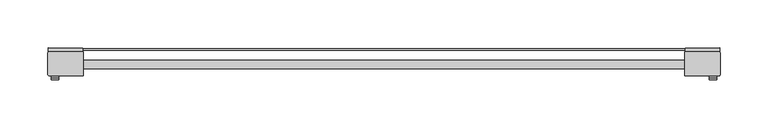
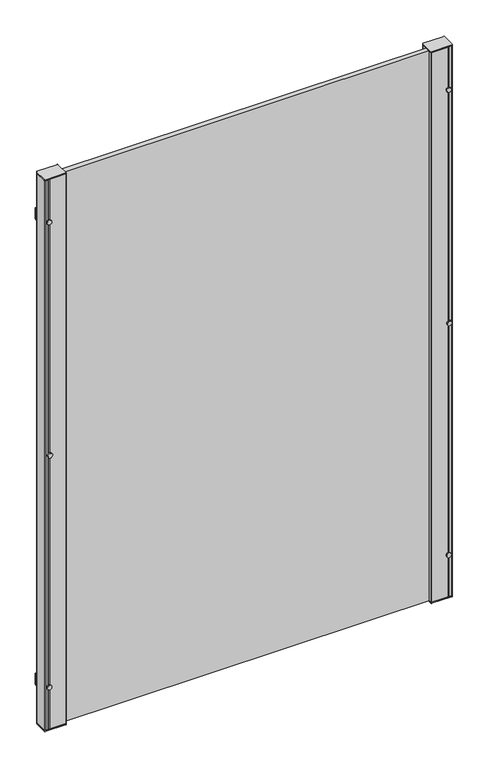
"""IFC4 building model written with IfcOpenShell, lengths in millimetres: railing geometry, F-Line Gotland 1,0m."""

from ifc_helpers import new_model, si_unit, point, frame, frame_2d, origin, place, context, project, spatial, polyline, circle_curve, trimmed, segment, composite_curve, outline, extrude, source, transform, mapped, element, save
from ifc_brep_helpers import plane_surface, cylinder_surface, advanced_brep


def railing_4f81313c(model_context):
    return source(origin(), model_context, "Body", "SolidModel", [
        extrude(outline(polyline([(-7719.9452678, -4853.7432901), (-7719.9452678, -4855.606973), (-8389.9452678, -4855.606973), (-8389.9452678, -4853.7432901), (-7719.9452678, -4853.7432901)])), frame((0.0, 0.0, 500.0), z_axis=(0.0, 0.0, 1.0), x_axis=(1.0, 0.0, 0.0)), (0.0, 0.0, 1.0), 1.1703418),
        extrude(outline(polyline([(-7719.9452678, -4866.3313559), (-7719.9452678, -4875.0913559), (-8389.9452678, -4875.0913559), (-8389.9452678, -4866.3313559), (-7719.9452678, -4866.3313559)])), frame((0.0, 0.0, 500.0), z_axis=(0.0, 0.0, 1.0), x_axis=(1.0, 0.0, 0.0)), (0.0, 0.0, 1.0), 999.0),
        extrude(outline(composite_curve([segment(trimmed(circle_curve(frame_2d((0.0, -4.0)), 4.0), [point((0.0, -8.0))], [point((0.0, 0.0))], False, "CARTESIAN"), True, "CONTINUOUS"), segment(trimmed(circle_curve(frame_2d((0.0, -4.0)), 4.0), [point((0.0, 0.0))], [point((0.0, -8.0))], False, "CARTESIAN"), True, "CONTINUOUS")], self_intersect=False)), frame((-8394.566425, -4886.2113714, 1000.5851709), z_axis=(-0.007850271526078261, 0.9999691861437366, 0.0), x_axis=(0.0, 0.0, 1.0)), (0.0, 0.0, 1.0), 2.0),
        extrude(outline(composite_curve([segment(trimmed(circle_curve(frame_2d((0.0, -4.0024314)), 4.0024314), [point((0.0, -8.0048629))], [point((0.0, 0.0))], False, "CARTESIAN"), True, "CONTINUOUS"), segment(trimmed(circle_curve(frame_2d((0.0, -4.0024314)), 4.0024314), [point((0.0, 0.0))], [point((0.0, -8.0048629))], False, "CARTESIAN"), True, "CONTINUOUS")], self_intersect=False)), frame((-8402.5690681, -4884.2741346, 577.9289095), z_axis=(-0.007850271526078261, 0.9999691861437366, 0.0), x_axis=(0.0, 0.0, -1.0)), (0.0, 0.0, 1.0), 2.0),
        extrude(outline(polyline([(-8405.7292985, -4853.2011524), (-8369.4164864, -4853.4862266), (-8369.4478875, -4857.4861033), (-8405.7606996, -4857.2010291), (-8405.7292985, -4853.2011524)])), frame((0.0, 0.0, 567.9289095), z_axis=(0.0, 0.0, 1.0), x_axis=(1.0, 0.0, 0.0)), (0.0, 0.0, 1.0), 20.0),
        extrude(outline(composite_curve([segment(trimmed(circle_curve(frame_2d((-8369.4452678, -4857.7113559)), 0.5), [point((-8369.6416779, -4857.2515483))], [point((-8368.9452678, -4857.7113559))], False, "CARTESIAN"), True, "CONTINUOUS"), segment(polyline([(-8368.9452678, -4857.7113559), (-8368.9452678, -4881.7113559)]), True, "CONTINUOUS"), segment(trimmed(circle_curve(frame_2d((-8369.4452678, -4881.7113559)), 0.5), [point((-8368.9452678, -4881.7113559))], [point((-8369.4452678, -4882.2113559))], False, "CARTESIAN"), True, "CONTINUOUS"), segment(polyline([(-8369.4452678, -4882.2113559), (-8404.4452678, -4882.2113559)]), True, "CONTINUOUS"), segment(trimmed(circle_curve(frame_2d((-8404.4452678, -4880.7113559)), 1.5), [point((-8404.4452678, -4882.2113559))], [point((-8405.9452678, -4880.7113559))], False, "CARTESIAN"), True, "CONTINUOUS"), segment(polyline([(-8405.9452678, -4880.7113559), (-8405.9452678, -4858.7113559)]), True, "CONTINUOUS"), segment(trimmed(circle_curve(frame_2d((-8404.4452678, -4858.7113559)), 1.5), [point((-8405.9452678, -4858.7113559))], [point((-8404.790176, -4857.2515483))], False, "CARTESIAN"), True, "CONTINUOUS"), segment(polyline([(-8404.790176, -4857.2515483), (-8369.6416779, -4857.2515483)]), True, "CONTINUOUS")], self_intersect=False)), frame((0.0, 0.0, 499.1703418), z_axis=(0.0, 0.0, 1.0), x_axis=(1.0, 0.0, 0.0)), (0.0, 0.0, 1.0), 2.0),
        extrude(outline(composite_curve([segment(trimmed(circle_curve(frame_2d((-8369.4452678, -4857.7113559)), 0.5), [point((-8369.6416779, -4857.2515483))], [point((-8368.9452678, -4857.7113559))], False, "CARTESIAN"), True, "CONTINUOUS"), segment(polyline([(-8368.9452678, -4857.7113559), (-8368.9452678, -4881.7113559)]), True, "CONTINUOUS"), segment(trimmed(circle_curve(frame_2d((-8369.4452678, -4881.7113559)), 0.5), [point((-8368.9452678, -4881.7113559))], [point((-8369.4452678, -4882.2113559))], False, "CARTESIAN"), True, "CONTINUOUS"), segment(polyline([(-8369.4452678, -4882.2113559), (-8404.4452678, -4882.2113559)]), True, "CONTINUOUS"), segment(trimmed(circle_curve(frame_2d((-8404.4452678, -4880.7113559)), 1.5), [point((-8404.4452678, -4882.2113559))], [point((-8405.9452678, -4880.7113559))], False, "CARTESIAN"), True, "CONTINUOUS"), segment(polyline([(-8405.9452678, -4880.7113559), (-8405.9452678, -4858.7113559)]), True, "CONTINUOUS"), segment(trimmed(circle_curve(frame_2d((-8404.4452678, -4858.7113559)), 1.5), [point((-8405.9452678, -4858.7113559))], [point((-8404.790176, -4857.2515483))], False, "CARTESIAN"), True, "CONTINUOUS"), segment(polyline([(-8404.790176, -4857.2515483), (-8369.6416779, -4857.2515483)]), True, "CONTINUOUS")], self_intersect=False)), frame((0.0, 0.0, 1500.0), z_axis=(0.0, 0.0, 1.0), x_axis=(1.0, 0.0, 0.0)), (0.0, 0.0, 1.0), 2.0),
        extrude(outline(composite_curve([segment(trimmed(circle_curve(frame_2d((0.0, -4.0024314)), 4.0024314), [point((0.0, -8.0048629))], [point((0.0, 0.0))], False, "CARTESIAN"), True, "CONTINUOUS"), segment(trimmed(circle_curve(frame_2d((0.0, -4.0024314)), 4.0024314), [point((0.0, 0.0))], [point((0.0, -8.0048629))], False, "CARTESIAN"), True, "CONTINUOUS")], self_intersect=False)), frame((-8402.5690681, -4884.2741346, 1423.2414322), z_axis=(-0.007850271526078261, 0.9999691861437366, 0.0), x_axis=(0.0, 0.0, -1.0)), (0.0, 0.0, 1.0), 2.0),
        extrude(outline(polyline([(-8405.7292985, -4853.2011524), (-8369.4164864, -4853.4862266), (-8369.4478875, -4857.4861033), (-8405.7606996, -4857.2010291), (-8405.7292985, -4853.2011524)])), frame((0.0, 0.0, 1413.2414322), z_axis=(0.0, 0.0, 1.0), x_axis=(1.0, 0.0, 0.0)), (0.0, 0.0, 1.0), 20.0),
        advanced_brep(
        [(-8404.4452678, -4857.2113559, 1500.0), (-8405.9452678, -4858.7113559, 1500.0), (-8405.9452678, -4880.7113559, 1500.0), (-8404.4452678, -4882.2113559, 1500.0), (-8399.3255543, -4882.1711635, 1500.0), (-8398.6039311, -4881.4495403, 1500.0), (-8397.4095289, -4882.2113559, 1500.0), (-8369.4452678, -4882.2113559, 1500.0), (-8368.9452678, -4881.7113559, 1500.0), (-8368.9452678, -4874.4712495, 1500.0), (-8387.4466418, -4874.4712495, 1500.0), (-8387.4466418, -4864.9512496, 1500.0), (-8368.9452678, -4864.9512496, 1500.0), (-8368.9452678, -4857.7113559, 1500.0), (-8369.6416779, -4857.2515483, 1500.0), (-8397.472544, -4857.2515483, 1500.0), (-8398.6039311, -4857.9731715, 1500.0), (-8399.3255543, -4857.2515483, 1500.0), (-8404.4452678, -4857.2113559, 501.1703418), (-8399.4755543, -4857.2113559, 501.1703418), (-8398.6039311, -4857.9731715, 501.1703418), (-8397.4095289, -4857.2113559, 501.1703418), (-8369.6416779, -4857.2515483, 501.1703418), (-8368.9452678, -4857.7113559, 501.1703418), (-8368.9452678, -4864.9512496, 501.1703418), (-8387.4466418, -4864.9512496, 501.1703418), (-8387.4466418, -4874.4712495, 501.1703418), (-8368.9452678, -4874.4712495, 501.1703418), (-8368.9452678, -4881.7113559, 501.1703418), (-8369.4452678, -4882.2113559, 501.1703418), (-8397.4095289, -4882.2113559, 501.1703418), (-8398.6039311, -4881.4495403, 501.1703418), (-8399.3255543, -4882.1711635, 501.1703418), (-8404.4452678, -4882.2113559, 501.1703418), (-8405.9452678, -4880.7113559, 501.1703418), (-8405.9452678, -4858.7113559, 501.1703418)],
        [
            (0, 1, circle_curve(frame((-8404.4452678, -4858.7113559, 1500.0), z_axis=(0.0, 0.0, 1.0), x_axis=(-0.00014726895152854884, 0.9999999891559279, 0.0)), 1.5)),
            (1, 2),
            (2, 3, circle_curve(frame((-8404.4452678, -4880.7113559, 1500.0), z_axis=(0.0, 0.0, 1.0), x_axis=(-0.00014726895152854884, 0.9999999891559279, 0.0)), 1.5)),
            (3, 4),
            (4, 5),
            (5, 6),
            (6, 7),
            (7, 8, circle_curve(frame((-8369.4452678, -4881.7113559, 1500.0), z_axis=(0.0, 0.0, 1.0), x_axis=(-0.00014726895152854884, 0.9999999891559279, 0.0)), 0.5)),
            (8, 9),
            (9, 10),
            (10, 11),
            (11, 12),
            (12, 13),
            (13, 14, circle_curve(frame((-8369.4452678, -4857.7113559, 1500.0), z_axis=(0.0, 0.0, 1.0), x_axis=(-0.00014726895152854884, 0.9999999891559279, 0.0)), 0.5)),
            (14, 15),
            (15, 16),
            (16, 17),
            (17, 0),
            (18, 19),
            (19, 20),
            (20, 21),
            (21, 22),
            (22, 23, circle_curve(frame((-8369.4452678, -4857.7113559, 501.1703418), z_axis=(0.0, 0.0, -1.0), x_axis=(-0.00014726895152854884, 0.9999999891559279, 0.0)), 0.5)),
            (23, 24),
            (24, 25),
            (25, 26),
            (26, 27),
            (27, 28),
            (28, 29, circle_curve(frame((-8369.4452678, -4881.7113559, 501.1703418), z_axis=(0.0, 0.0, -1.0), x_axis=(-0.00014726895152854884, 0.9999999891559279, 0.0)), 0.5)),
            (29, 30),
            (30, 31),
            (31, 32),
            (32, 33),
            (33, 34, circle_curve(frame((-8404.4452678, -4880.7113559, 501.1703418), z_axis=(0.0, 0.0, -1.0), x_axis=(-0.00014726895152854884, 0.9999999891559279, 0.0)), 1.5)),
            (34, 35),
            (35, 18, circle_curve(frame((-8404.4452678, -4858.7113559, 501.1703418), z_axis=(0.0, 0.0, -1.0), x_axis=(-0.00014726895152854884, 0.9999999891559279, 0.0)), 1.5)),
            (0, 18),
            (35, 1),
            (34, 2),
            (33, 3),
            (32, 4),
            (31, 5),
            (30, 6),
            (29, 7),
            (28, 8),
            (27, 9),
            (26, 10),
            (25, 11),
            (24, 12),
            (23, 13),
            (22, 14),
            (21, 15),
            (20, 16),
            (19, 17),
        ],
        [
            plane_surface(frame((-8404.4454887, -4857.2113559, 1500.0), z_axis=(0.0, 0.0, 1.0), x_axis=(-0.9999999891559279, -0.00014726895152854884, 0.0))),
            plane_surface(frame((-8404.4454887, -4857.2113559, 501.1703418), z_axis=(0.0, 0.0, -1.0), x_axis=(0.9999999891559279, 0.00014726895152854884, 0.0))),
            cylinder_surface(frame((-8404.4452678, -4858.7113559, 501.1703418), z_axis=(0.0, 0.0, 1.0), x_axis=(-0.00014726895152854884, 0.9999999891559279, 0.0)), 1.5),
            plane_surface(frame((-8405.9452678, -4858.7113559, 1500.0), z_axis=(-1.0, 1.94835731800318e-12, 0.0), x_axis=(0.0, 0.0, -1.0))),
            cylinder_surface(frame((-8404.4452678, -4880.7113559, 501.1703418), z_axis=(0.0, 0.0, 1.0), x_axis=(-0.00014726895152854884, 0.9999999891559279, 0.0)), 1.5),
            plane_surface(frame((-8404.4452678, -4882.2113559, 1500.0), z_axis=(0.0078502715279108, -0.9999691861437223, 0.0), x_axis=(0.0, 0.0, -1.0))),
            plane_surface(frame((-8399.3255543, -4882.1711635, 1500.0), z_axis=(0.7071067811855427, -0.7071067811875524, 0.0), x_axis=(0.0, 0.0, -1.0))),
            plane_surface(frame((-8398.6039311, -4881.4495403, 1500.0), z_axis=(-0.5377501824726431, -0.8431042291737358, 0.0), x_axis=(0.0, 0.0, -1.0))),
            plane_surface(frame((-8397.4095289, -4882.2113559, 1500.0), z_axis=(-1.948453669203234e-12, -1.0, 0.0), x_axis=(0.0, 0.0, -1.0))),
            cylinder_surface(frame((-8369.4452678, -4881.7113559, 501.1703418), z_axis=(0.0, 0.0, 1.0), x_axis=(-0.00014726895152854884, 0.9999999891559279, 0.0)), 0.5),
            plane_surface(frame((-8368.9452678, -4881.7113559, 1500.0), z_axis=(1.0, -1.948567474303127e-12, 0.0), x_axis=(0.0, 0.0, -1.0))),
            plane_surface(frame((-8368.9452678, -4874.4712495, 1500.0), z_axis=(1.9483195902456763e-12, 1.0, 0.0), x_axis=(0.0, 0.0, -1.0))),
            plane_surface(frame((-8387.4466418, -4874.4712495, 1500.0), z_axis=(1.0, -1.9482559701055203e-12, 0.0), x_axis=(0.0, 0.0, -1.0))),
            plane_surface(frame((-8387.4466418, -4864.9512496, 1500.0), z_axis=(-1.9483481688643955e-12, -1.0, 0.0), x_axis=(0.0, 0.0, -1.0))),
            plane_surface(frame((-8368.9452678, -4864.9512496, 1500.0), z_axis=(1.0, -1.94862440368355e-12, 0.0), x_axis=(0.0, 0.0, -1.0))),
            cylinder_surface(frame((-8369.4452678, -4857.7113559, 501.1703418), z_axis=(0.0, 0.0, 1.0), x_axis=(-0.00014726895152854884, 0.9999999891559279, 0.0)), 0.5),
            plane_surface(frame((-8369.6416779, -4857.2515483, 1500.0), z_axis=(1.9483379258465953e-12, 1.0, 0.0), x_axis=(0.0, 0.0, -1.0))),
            plane_surface(frame((-8397.4095289, -4857.2113559, 1500.0), z_axis=(-0.5377501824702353, 0.8431042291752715, 0.0), x_axis=(0.0, 0.0, -1.0))),
            plane_surface(frame((-8398.6039311, -4857.9731715, 1500.0), z_axis=(0.7071067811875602, 0.7071067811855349, 0.0), x_axis=(0.0, 0.0, -1.0))),
            plane_surface(frame((-8399.4755543, -4857.2113559, 1500.0), z_axis=(1.9484396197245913e-12, 1.0, 0.0), x_axis=(0.0, 0.0, -1.0))),
        ],
        [
            (0, [[1, 2, 3, 4, 5, 6, 7, 8, 9, 10, 11, 12, 13, 14, 15, 16, 17, 18]]),
            (1, [[19, 20, 21, 22, 23, 24, 25, 26, 27, 28, 29, 30, 31, 32, 33, 34, 35, 36]]),
            (2, [[-1, 37, -36, 38]]),
            (3, [[-2, -38, -35, 39]]),
            (4, [[-3, -39, -34, 40]]),
            (5, [[-4, -40, -33, 41]]),
            (6, [[-5, -41, -32, 42]]),
            (7, [[-6, -42, -31, 43]]),
            (8, [[-7, -43, -30, 44]]),
            (9, [[-8, -44, -29, 45]]),
            (10, [[-9, -45, -28, 46]]),
            (11, [[-10, -46, -27, 47]]),
            (12, [[-11, -47, -26, 48]]),
            (13, [[-12, -48, -25, 49]]),
            (14, [[-13, -49, -24, 50]]),
            (15, [[-14, -50, -23, 51]]),
            (16, [[-15, -51, -22, 52]]),
            (17, [[-16, -52, -21, 53]]),
            (18, [[-17, -53, -20, 54]]),
            (19, [[-18, -54, -19, -37]]),
        ],
    ),
        extrude(outline(composite_curve([segment(trimmed(circle_curve(frame_2d((0.0, -4.0000001)), 4.0), [point((0.0, -8.0))], [point((0.0, 0.0))], False, "CARTESIAN"), True, "CONTINUOUS"), segment(trimmed(circle_curve(frame_2d((0.0, -4.0000001)), 4.0), [point((0.0, 0.0))], [point((0.0, -8.0))], False, "CARTESIAN"), True, "CONTINUOUS")], self_intersect=False)), frame((-7707.324357, -4886.2741736, 1000.5851709), z_axis=(0.007850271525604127, 0.9999691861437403, 0.0), x_axis=(0.0, 0.0, 1.0)), (0.0, 0.0, 1.0), 2.0),
        extrude(outline(composite_curve([segment(trimmed(circle_curve(frame_2d((0.0, -4.0024314)), 4.0024314), [point((0.0, -8.0048629))], [point((0.0, 0.0))], False, "CARTESIAN"), True, "CONTINUOUS"), segment(trimmed(circle_curve(frame_2d((0.0, -4.0024314)), 4.0024314), [point((0.0, 0.0))], [point((0.0, -8.0048629))], False, "CARTESIAN"), True, "CONTINUOUS")], self_intersect=False)), frame((-7707.3214674, -4884.2741346, 577.9289095), z_axis=(0.007850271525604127, 0.9999691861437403, 0.0), x_axis=(0.0, 0.0, 1.0)), (0.0, 0.0, 1.0), 2.0),
        extrude(outline(polyline([(-7740.4740491, -4853.4862266), (-7704.161237, -4853.2011524), (-7704.1298359, -4857.2010291), (-7740.442648, -4857.4861033), (-7740.4740491, -4853.4862266)])), frame((0.0, 0.0, 567.9289095), z_axis=(0.0, 0.0, 1.0), x_axis=(1.0, 0.0, 0.0)), (0.0, 0.0, 1.0), 20.0),
        extrude(outline(composite_curve([segment(trimmed(circle_curve(frame_2d((0.0, -4.0024314)), 4.0024314), [point((0.0, -8.0048629))], [point((0.0, 0.0))], False, "CARTESIAN"), True, "CONTINUOUS"), segment(trimmed(circle_curve(frame_2d((0.0, -4.0024314)), 4.0024314), [point((0.0, 0.0))], [point((0.0, -8.0048629))], False, "CARTESIAN"), True, "CONTINUOUS")], self_intersect=False)), frame((-7707.3214674, -4884.2741346, 1423.2414322), z_axis=(0.007850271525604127, 0.9999691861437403, 0.0), x_axis=(0.0, 0.0, 1.0)), (0.0, 0.0, 1.0), 2.0),
        extrude(outline(polyline([(-7740.4740491, -4853.4862266), (-7704.161237, -4853.2011524), (-7704.1298359, -4857.2010291), (-7740.442648, -4857.4861033), (-7740.4740491, -4853.4862266)])), frame((0.0, 0.0, 1413.2414322), z_axis=(0.0, 0.0, 1.0), x_axis=(1.0, 0.0, 0.0)), (0.0, 0.0, 1.0), 20.0),
        extrude(outline(composite_curve([segment(trimmed(circle_curve(frame_2d((-7740.4452678, -4881.7113559)), 0.5), [point((-7740.2488576, -4882.1711635))], [point((-7740.9452678, -4881.7113559))], False, "CARTESIAN"), True, "CONTINUOUS"), segment(polyline([(-7740.9452678, -4881.7113559), (-7740.9452678, -4857.7113559)]), True, "CONTINUOUS"), segment(trimmed(circle_curve(frame_2d((-7740.4452678, -4857.7113559)), 0.5), [point((-7740.9452678, -4857.7113559))], [point((-7740.4452678, -4857.2113559))], False, "CARTESIAN"), True, "CONTINUOUS"), segment(polyline([(-7740.4452678, -4857.2113559), (-7705.4452678, -4857.2113559)]), True, "CONTINUOUS"), segment(trimmed(circle_curve(frame_2d((-7705.4452678, -4858.7113559)), 1.5), [point((-7705.4452678, -4857.2113559))], [point((-7703.9452678, -4858.7113559))], False, "CARTESIAN"), True, "CONTINUOUS"), segment(polyline([(-7703.9452678, -4858.7113559), (-7703.9452678, -4880.7113559)]), True, "CONTINUOUS"), segment(trimmed(circle_curve(frame_2d((-7705.4452678, -4880.7113559)), 1.5), [point((-7703.9452678, -4880.7113559))], [point((-7705.1003595, -4882.1711635))], False, "CARTESIAN"), True, "CONTINUOUS"), segment(polyline([(-7705.1003595, -4882.1711635), (-7740.2488576, -4882.1711635)]), True, "CONTINUOUS")], self_intersect=False)), frame((0.0, 0.0, 499.1703418), z_axis=(0.0, 0.0, 1.0), x_axis=(1.0, 0.0, 0.0)), (0.0, 0.0, 1.0), 2.0),
        extrude(outline(composite_curve([segment(trimmed(circle_curve(frame_2d((-7740.4452678, -4881.7113559)), 0.5), [point((-7740.2488576, -4882.1711635))], [point((-7740.9452678, -4881.7113559))], False, "CARTESIAN"), True, "CONTINUOUS"), segment(polyline([(-7740.9452678, -4881.7113559), (-7740.9452678, -4857.7113559)]), True, "CONTINUOUS"), segment(trimmed(circle_curve(frame_2d((-7740.4452678, -4857.7113559)), 0.5), [point((-7740.9452678, -4857.7113559))], [point((-7740.4452678, -4857.2113559))], False, "CARTESIAN"), True, "CONTINUOUS"), segment(polyline([(-7740.4452678, -4857.2113559), (-7705.4452678, -4857.2113559)]), True, "CONTINUOUS"), segment(trimmed(circle_curve(frame_2d((-7705.4452678, -4858.7113559)), 1.5), [point((-7705.4452678, -4857.2113559))], [point((-7703.9452678, -4858.7113559))], False, "CARTESIAN"), True, "CONTINUOUS"), segment(polyline([(-7703.9452678, -4858.7113559), (-7703.9452678, -4880.7113559)]), True, "CONTINUOUS"), segment(trimmed(circle_curve(frame_2d((-7705.4452678, -4880.7113559)), 1.5), [point((-7703.9452678, -4880.7113559))], [point((-7705.1003595, -4882.1711635))], False, "CARTESIAN"), True, "CONTINUOUS"), segment(polyline([(-7705.1003595, -4882.1711635), (-7740.2488576, -4882.1711635)]), True, "CONTINUOUS")], self_intersect=False)), frame((0.0, 0.0, 1500.0), z_axis=(0.0, 0.0, 1.0), x_axis=(1.0, 0.0, 0.0)), (0.0, 0.0, 1.0), 2.0),
        advanced_brep(
        [(-7705.4452678, -4882.2113559, 1500.0), (-7703.9452678, -4880.7113559, 1500.0), (-7703.9452678, -4858.7113559, 1500.0), (-7705.4452678, -4857.2113559, 1500.0), (-7710.5649812, -4857.2515483, 1500.0), (-7711.2866044, -4857.9731715, 1500.0), (-7712.4810066, -4857.2113559, 1500.0), (-7740.4452678, -4857.2113559, 1500.0), (-7740.9452678, -4857.7113559, 1500.0), (-7740.9452678, -4864.9514623, 1500.0), (-7722.4438937, -4864.9514623, 1500.0), (-7722.4438937, -4874.4714623, 1500.0), (-7740.9452678, -4874.4714623, 1500.0), (-7740.9452678, -4881.7113559, 1500.0), (-7740.2488576, -4882.1711635, 1500.0), (-7712.4179915, -4882.1711635, 1500.0), (-7711.2866044, -4881.4495403, 1500.0), (-7710.5649812, -4882.1711635, 1500.0), (-7705.4452678, -4882.2113559, 501.1703418), (-7710.4149812, -4882.2113559, 501.1703418), (-7711.2866044, -4881.4495403, 501.1703418), (-7712.4810066, -4882.2113559, 501.1703418), (-7740.2488576, -4882.1711635, 501.1703418), (-7740.9452678, -4881.7113559, 501.1703418), (-7740.9452678, -4874.4714623, 501.1703418), (-7722.4438937, -4874.4714623, 501.1703418), (-7722.4438937, -4864.9514623, 501.1703418), (-7740.9452678, -4864.9514623, 501.1703418), (-7740.9452678, -4857.7113559, 501.1703418), (-7740.4452678, -4857.2113559, 501.1703418), (-7712.4810066, -4857.2113559, 501.1703418), (-7711.2866044, -4857.9731715, 501.1703418), (-7710.5649812, -4857.2515483, 501.1703418), (-7705.4452678, -4857.2113559, 501.1703418), (-7703.9452678, -4858.7113559, 501.1703418), (-7703.9452678, -4880.7113559, 501.1703418)],
        [
            (0, 1, circle_curve(frame((-7705.4452678, -4880.7113559, 1500.0), z_axis=(0.0, 0.0, 1.0), x_axis=(0.00014726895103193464, -0.999999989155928, 0.0)), 1.5)),
            (1, 2),
            (2, 3, circle_curve(frame((-7705.4452678, -4858.7113559, 1500.0), z_axis=(0.0, 0.0, 1.0), x_axis=(0.00014726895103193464, -0.999999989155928, 0.0)), 1.5)),
            (3, 4),
            (4, 5),
            (5, 6),
            (6, 7),
            (7, 8, circle_curve(frame((-7740.4452678, -4857.7113559, 1500.0), z_axis=(0.0, 0.0, 1.0), x_axis=(0.00014726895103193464, -0.999999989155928, 0.0)), 0.5)),
            (8, 9),
            (9, 10),
            (10, 11),
            (11, 12),
            (12, 13),
            (13, 14, circle_curve(frame((-7740.4452678, -4881.7113559, 1500.0), z_axis=(0.0, 0.0, 1.0), x_axis=(0.00014726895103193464, -0.999999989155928, 0.0)), 0.5)),
            (14, 15),
            (15, 16),
            (16, 17),
            (17, 0),
            (18, 19),
            (19, 20),
            (20, 21),
            (21, 22),
            (22, 23, circle_curve(frame((-7740.4452678, -4881.7113559, 501.1703418), z_axis=(0.0, 0.0, -1.0), x_axis=(0.00014726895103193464, -0.999999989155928, 0.0)), 0.5)),
            (23, 24),
            (24, 25),
            (25, 26),
            (26, 27),
            (27, 28),
            (28, 29, circle_curve(frame((-7740.4452678, -4857.7113559, 501.1703418), z_axis=(0.0, 0.0, -1.0), x_axis=(0.00014726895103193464, -0.999999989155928, 0.0)), 0.5)),
            (29, 30),
            (30, 31),
            (31, 32),
            (32, 33),
            (33, 34, circle_curve(frame((-7705.4452678, -4858.7113559, 501.1703418), z_axis=(0.0, 0.0, -1.0), x_axis=(0.00014726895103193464, -0.999999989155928, 0.0)), 1.5)),
            (34, 35),
            (35, 18, circle_curve(frame((-7705.4452678, -4880.7113559, 501.1703418), z_axis=(0.0, 0.0, -1.0), x_axis=(0.00014726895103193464, -0.999999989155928, 0.0)), 1.5)),
            (0, 18),
            (35, 1),
            (34, 2),
            (33, 3),
            (32, 4),
            (31, 5),
            (30, 6),
            (29, 7),
            (28, 8),
            (27, 9),
            (26, 10),
            (25, 11),
            (24, 12),
            (23, 13),
            (22, 14),
            (21, 15),
            (20, 16),
            (19, 17),
        ],
        [
            plane_surface(frame((-7705.4450469, -4882.2113559, 1500.0), z_axis=(0.0, 0.0, 1.0), x_axis=(0.999999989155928, 0.00014726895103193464, 0.0))),
            plane_surface(frame((-7705.4450469, -4882.2113559, 501.1703418), z_axis=(0.0, 0.0, -1.0), x_axis=(-0.999999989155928, -0.00014726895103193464, 0.0))),
            cylinder_surface(frame((-7705.4452678, -4880.7113559, 501.1703418), z_axis=(0.0, 0.0, 1.0), x_axis=(0.00014726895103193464, -0.999999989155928, 0.0)), 1.5),
            plane_surface(frame((-7703.9452678, -4880.7113559, 1500.0), z_axis=(1.0, -2.444981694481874e-12, 0.0), x_axis=(0.0, 0.0, -1.0))),
            cylinder_surface(frame((-7705.4452678, -4858.7113559, 501.1703418), z_axis=(0.0, 0.0, 1.0), x_axis=(0.00014726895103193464, -0.999999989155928, 0.0)), 1.5),
            plane_surface(frame((-7705.4452678, -4857.2113559, 1500.0), z_axis=(-0.007850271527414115, 0.9999691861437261, 0.0), x_axis=(0.0, 0.0, -1.0))),
            plane_surface(frame((-7710.5649812, -4857.2515483, 1500.0), z_axis=(-0.7071067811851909, 0.7071067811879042, 0.0), x_axis=(0.0, 0.0, -1.0))),
            plane_surface(frame((-7711.2866044, -4857.9731715, 1500.0), z_axis=(0.5377501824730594, 0.8431042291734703, 0.0), x_axis=(0.0, 0.0, -1.0))),
            plane_surface(frame((-7712.4810066, -4857.2113559, 1500.0), z_axis=(2.4451247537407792e-12, 1.0, 0.0), x_axis=(0.0, 0.0, -1.0))),
            cylinder_surface(frame((-7740.4452678, -4857.7113559, 501.1703418), z_axis=(0.0, 0.0, 1.0), x_axis=(0.00014726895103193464, -0.999999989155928, 0.0)), 0.5),
            plane_surface(frame((-7740.9452678, -4857.7113559, 1500.0), z_axis=(-1.0, 2.445170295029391e-12, 0.0), x_axis=(0.0, 0.0, -1.0))),
            plane_surface(frame((-7740.9452678, -4864.9514623, 1500.0), z_axis=(-2.4449302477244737e-12, -1.0, 0.0), x_axis=(0.0, 0.0, -1.0))),
            plane_surface(frame((-7722.4438937, -4864.9514623, 1500.0), z_axis=(-1.0, 2.445008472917e-12, 0.0), x_axis=(0.0, 0.0, -1.0))),
            plane_surface(frame((-7722.4438937, -4874.4714623, 1500.0), z_axis=(2.444958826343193e-12, 1.0, 0.0), x_axis=(0.0, 0.0, -1.0))),
            plane_surface(frame((-7740.9452678, -4874.4714623, 1500.0), z_axis=(-1.0, 2.4452418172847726e-12, 0.0), x_axis=(0.0, 0.0, -1.0))),
            cylinder_surface(frame((-7740.4452678, -4881.7113559, 501.1703418), z_axis=(0.0, 0.0, 1.0), x_axis=(0.00014726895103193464, -0.999999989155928, 0.0)), 0.5),
            plane_surface(frame((-7740.2488576, -4882.1711635, 1500.0), z_axis=(-2.4449521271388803e-12, -1.0, 0.0), x_axis=(0.0, 0.0, -1.0))),
            plane_surface(frame((-7712.4810066, -4882.2113559, 1500.0), z_axis=(0.5377501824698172, -0.8431042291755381, 0.0), x_axis=(0.0, 0.0, -1.0))),
            plane_surface(frame((-7711.2866044, -4881.4495403, 1500.0), z_axis=(-0.7071067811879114, -0.7071067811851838, 0.0), x_axis=(0.0, 0.0, -1.0))),
            plane_surface(frame((-7710.4149812, -4882.2113559, 1500.0), z_axis=(-2.445083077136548e-12, -1.0, 0.0), x_axis=(0.0, 0.0, -1.0))),
        ],
        [
            (0, [[1, 2, 3, 4, 5, 6, 7, 8, 9, 10, 11, 12, 13, 14, 15, 16, 17, 18]]),
            (1, [[19, 20, 21, 22, 23, 24, 25, 26, 27, 28, 29, 30, 31, 32, 33, 34, 35, 36]]),
            (2, [[-1, 37, -36, 38]]),
            (3, [[-2, -38, -35, 39]]),
            (4, [[-3, -39, -34, 40]]),
            (5, [[-4, -40, -33, 41]]),
            (6, [[-5, -41, -32, 42]]),
            (7, [[-6, -42, -31, 43]]),
            (8, [[-7, -43, -30, 44]]),
            (9, [[-8, -44, -29, 45]]),
            (10, [[-9, -45, -28, 46]]),
            (11, [[-10, -46, -27, 47]]),
            (12, [[-11, -47, -26, 48]]),
            (13, [[-12, -48, -25, 49]]),
            (14, [[-13, -49, -24, 50]]),
            (15, [[-14, -50, -23, 51]]),
            (16, [[-15, -51, -22, 52]]),
            (17, [[-16, -52, -21, 53]]),
            (18, [[-17, -53, -20, 54]]),
            (19, [[-18, -54, -19, -37]]),
        ],
    ),
    ])


if __name__ == "__main__":
    model = new_model("IFC4")
    model_context = context("Model", 3, world=origin())
    ifc_project = project(units=[si_unit("LENGTHUNIT", "METRE", prefix="MILLI")], contexts=[model_context])
    site = spatial("IfcSite", under=ifc_project)
    building = spatial("IfcBuilding", under=site)
    placement = place(None, origin())
    railing_shape = railing_4f81313c(model_context)
    element("IfcRailing", 1, ObjectType="F-Line Gotland 1,0m", at=placement, inside=building, context=model_context, shape_type="MappedRepresentation", body=[
        mapped(railing_shape, transform((0.0, 0.0, 0.0), x_axis=(1.0, 0.0, 0.0), y_axis=(0.0, 1.0, 0.0), z_axis=(0.0, 0.0, 1.0))),
    ])
    save(model, "model.ifc")
